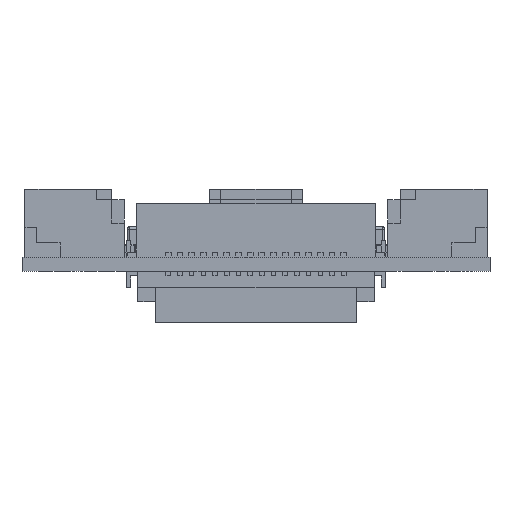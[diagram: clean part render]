
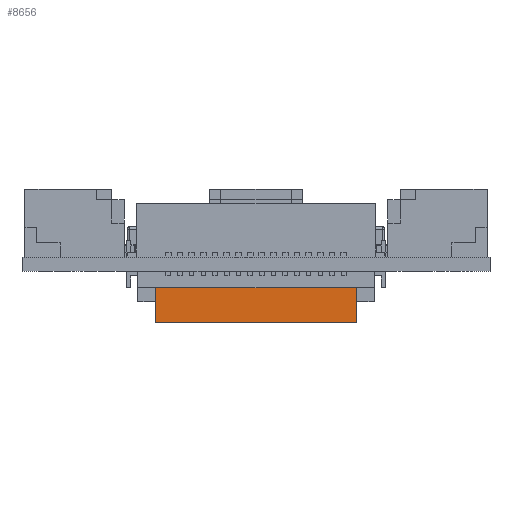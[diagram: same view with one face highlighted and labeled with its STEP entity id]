
A CAD part, front view. The second image highlights one B-rep face of the part: STEP entity #8656.
In plain terms, the highlighted planar face has unit normal (0, -1, 0).
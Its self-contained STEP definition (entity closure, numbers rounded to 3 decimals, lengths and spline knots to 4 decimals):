
#263 = PLANE('',#264);
#264 = AXIS2_PLACEMENT_3D('',#265,#266,#267);
#265 = CARTESIAN_POINT('',(21.5,14.3,-0.7));
#266 = DIRECTION('',(0.,0.,-1.));
#267 = DIRECTION('',(1.,0.,0.));
#2348 = EDGE_CURVE('',#2349,#2351,#2353,.T.);
#2349 = VERTEX_POINT('',#2350);
#2350 = CARTESIAN_POINT('',(24.3,13.1,-0.7));
#2351 = VERTEX_POINT('',#2352);
#2352 = CARTESIAN_POINT('',(15.7,13.1,-0.7));
#2353 = SURFACE_CURVE('',#2354,(#2358,#2365),.PCURVE_S1.);
#2354 = LINE('',#2355,#2356);
#2355 = CARTESIAN_POINT('',(21.65,13.1,-0.7));
#2356 = VECTOR('',#2357,1.);
#2357 = DIRECTION('',(-1.,0.,0.));
#2358 = PCURVE('',#263,#2359);
#2359 = DEFINITIONAL_REPRESENTATION('',(#2360),#2364);
#2360 = LINE('',#2361,#2362);
#2361 = CARTESIAN_POINT('',(0.15,1.2));
#2362 = VECTOR('',#2363,1.);
#2363 = DIRECTION('',(-1.,0.));
#2364 = ( GEOMETRIC_REPRESENTATION_CONTEXT(2) 
PARAMETRIC_REPRESENTATION_CONTEXT() REPRESENTATION_CONTEXT('2D SPACE',''
  ) );
#2365 = PCURVE('',#2366,#2371);
#2366 = PLANE('',#2367);
#2367 = AXIS2_PLACEMENT_3D('',#2368,#2369,#2370);
#2368 = CARTESIAN_POINT('',(24.3,13.1,-2.7));
#2369 = DIRECTION('',(0.,-1.,0.));
#2370 = DIRECTION('',(1.,0.,0.));
#2371 = DEFINITIONAL_REPRESENTATION('',(#2372),#2376);
#2372 = LINE('',#2373,#2374);
#2373 = CARTESIAN_POINT('',(-2.65,2.));
#2374 = VECTOR('',#2375,1.);
#2375 = DIRECTION('',(-1.,0.));
#2376 = ( GEOMETRIC_REPRESENTATION_CONTEXT(2) 
PARAMETRIC_REPRESENTATION_CONTEXT() REPRESENTATION_CONTEXT('2D SPACE',''
  ) );
#2394 = PLANE('',#2395);
#2395 = AXIS2_PLACEMENT_3D('',#2396,#2397,#2398);
#2396 = CARTESIAN_POINT('',(24.3,13.75,-2.7));
#2397 = DIRECTION('',(1.,0.,0.));
#2398 = DIRECTION('',(0.,1.,0.));
#2499 = PLANE('',#2500);
#2500 = AXIS2_PLACEMENT_3D('',#2501,#2502,#2503);
#2501 = CARTESIAN_POINT('',(15.7,14.85,-2.7));
#2502 = DIRECTION('',(-1.,0.,0.));
#2503 = DIRECTION('',(0.,-1.,0.));
#8656 = ADVANCED_FACE('',(#8657),#2366,.T.);
#8657 = FACE_BOUND('',#8658,.T.);
#8658 = EDGE_LOOP('',(#8659,#8660,#8683,#8711));
#8659 = ORIENTED_EDGE('',*,*,#2348,.T.);
#8660 = ORIENTED_EDGE('',*,*,#8661,.F.);
#8661 = EDGE_CURVE('',#8662,#2351,#8664,.T.);
#8662 = VERTEX_POINT('',#8663);
#8663 = CARTESIAN_POINT('',(15.7,13.1,-2.2));
#8664 = SURFACE_CURVE('',#8665,(#8669,#8676),.PCURVE_S1.);
#8665 = LINE('',#8666,#8667);
#8666 = CARTESIAN_POINT('',(15.7,13.1,-2.2));
#8667 = VECTOR('',#8668,1.);
#8668 = DIRECTION('',(0.,0.,1.));
#8669 = PCURVE('',#2366,#8670);
#8670 = DEFINITIONAL_REPRESENTATION('',(#8671),#8675);
#8671 = LINE('',#8672,#8673);
#8672 = CARTESIAN_POINT('',(-8.6,0.5));
#8673 = VECTOR('',#8674,1.);
#8674 = DIRECTION('',(0.,1.));
#8675 = ( GEOMETRIC_REPRESENTATION_CONTEXT(2) 
PARAMETRIC_REPRESENTATION_CONTEXT() REPRESENTATION_CONTEXT('2D SPACE',''
  ) );
#8676 = PCURVE('',#2499,#8677);
#8677 = DEFINITIONAL_REPRESENTATION('',(#8678),#8682);
#8678 = LINE('',#8679,#8680);
#8679 = CARTESIAN_POINT('',(1.75,0.5));
#8680 = VECTOR('',#8681,1.);
#8681 = DIRECTION('',(0.,1.));
#8682 = ( GEOMETRIC_REPRESENTATION_CONTEXT(2) 
PARAMETRIC_REPRESENTATION_CONTEXT() REPRESENTATION_CONTEXT('2D SPACE',''
  ) );
#8683 = ORIENTED_EDGE('',*,*,#8684,.F.);
#8684 = EDGE_CURVE('',#8685,#8662,#8687,.T.);
#8685 = VERTEX_POINT('',#8686);
#8686 = CARTESIAN_POINT('',(24.3,13.1,-2.2));
#8687 = SURFACE_CURVE('',#8688,(#8692,#8699),.PCURVE_S1.);
#8688 = LINE('',#8689,#8690);
#8689 = CARTESIAN_POINT('',(22.975,13.1,-2.2));
#8690 = VECTOR('',#8691,1.);
#8691 = DIRECTION('',(-1.,0.,0.));
#8692 = PCURVE('',#2366,#8693);
#8693 = DEFINITIONAL_REPRESENTATION('',(#8694),#8698);
#8694 = LINE('',#8695,#8696);
#8695 = CARTESIAN_POINT('',(-1.325,0.5));
#8696 = VECTOR('',#8697,1.);
#8697 = DIRECTION('',(-1.,0.));
#8698 = ( GEOMETRIC_REPRESENTATION_CONTEXT(2) 
PARAMETRIC_REPRESENTATION_CONTEXT() REPRESENTATION_CONTEXT('2D SPACE',''
  ) );
#8699 = PCURVE('',#8700,#8705);
#8700 = PLANE('',#8701);
#8701 = AXIS2_PLACEMENT_3D('',#8702,#8703,#8704);
#8702 = CARTESIAN_POINT('',(21.65,15.8,-2.2));
#8703 = DIRECTION('',(0.,0.,-1.));
#8704 = DIRECTION('',(1.,0.,0.));
#8705 = DEFINITIONAL_REPRESENTATION('',(#8706),#8710);
#8706 = LINE('',#8707,#8708);
#8707 = CARTESIAN_POINT('',(1.325,2.7));
#8708 = VECTOR('',#8709,1.);
#8709 = DIRECTION('',(-1.,0.));
#8710 = ( GEOMETRIC_REPRESENTATION_CONTEXT(2) 
PARAMETRIC_REPRESENTATION_CONTEXT() REPRESENTATION_CONTEXT('2D SPACE',''
  ) );
#8711 = ORIENTED_EDGE('',*,*,#8712,.T.);
#8712 = EDGE_CURVE('',#8685,#2349,#8713,.T.);
#8713 = SURFACE_CURVE('',#8714,(#8718,#8725),.PCURVE_S1.);
#8714 = LINE('',#8715,#8716);
#8715 = CARTESIAN_POINT('',(24.3,13.1,-2.2));
#8716 = VECTOR('',#8717,1.);
#8717 = DIRECTION('',(0.,0.,1.));
#8718 = PCURVE('',#2366,#8719);
#8719 = DEFINITIONAL_REPRESENTATION('',(#8720),#8724);
#8720 = LINE('',#8721,#8722);
#8721 = CARTESIAN_POINT('',(0.,0.5));
#8722 = VECTOR('',#8723,1.);
#8723 = DIRECTION('',(0.,1.));
#8724 = ( GEOMETRIC_REPRESENTATION_CONTEXT(2) 
PARAMETRIC_REPRESENTATION_CONTEXT() REPRESENTATION_CONTEXT('2D SPACE',''
  ) );
#8725 = PCURVE('',#2394,#8726);
#8726 = DEFINITIONAL_REPRESENTATION('',(#8727),#8731);
#8727 = LINE('',#8728,#8729);
#8728 = CARTESIAN_POINT('',(-0.65,0.5));
#8729 = VECTOR('',#8730,1.);
#8730 = DIRECTION('',(0.,1.));
#8731 = ( GEOMETRIC_REPRESENTATION_CONTEXT(2) 
PARAMETRIC_REPRESENTATION_CONTEXT() REPRESENTATION_CONTEXT('2D SPACE',''
  ) );
